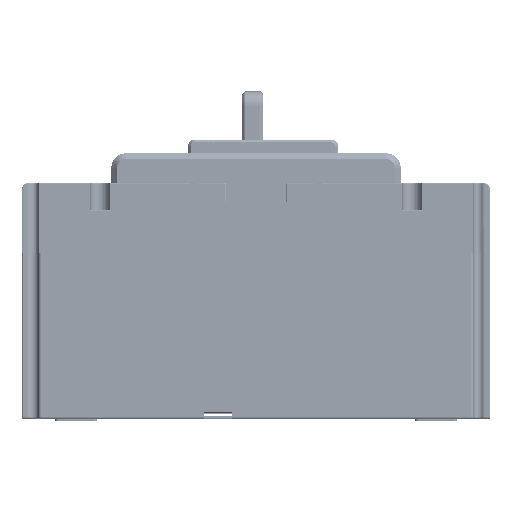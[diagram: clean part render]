
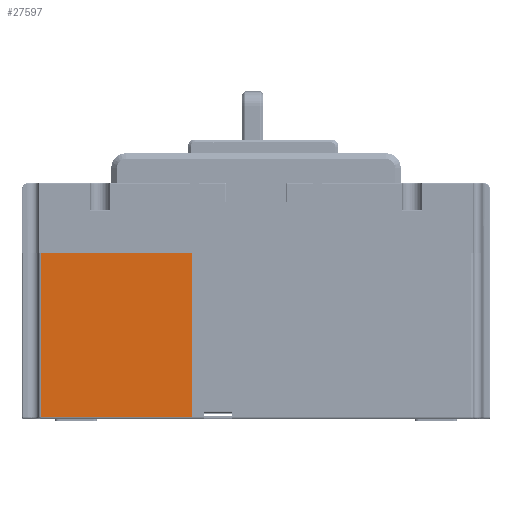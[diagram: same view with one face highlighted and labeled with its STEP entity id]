
A CAD part, top view. The second image highlights one B-rep face of the part: STEP entity #27597.
In plain terms, the highlighted planar face has unit normal (0, 0, 1).
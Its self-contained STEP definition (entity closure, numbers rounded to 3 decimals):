
#281=DIRECTION('',(1.,0.,0.));
#282=VECTOR('',#281,53.167);
#283=CARTESIAN_POINT('',(-75.667,-49.3,88.5));
#284=LINE('',#283,#282);
#299=DIRECTION('',(0.,1.,0.));
#300=VECTOR('',#299,58.);
#301=CARTESIAN_POINT('',(-22.5,-49.3,88.5));
#302=LINE('',#301,#300);
#738=DIRECTION('',(-1.,0.,0.));
#739=VECTOR('',#738,53.167);
#740=CARTESIAN_POINT('',(-22.5,8.7,88.5));
#741=LINE('',#740,#739);
#4413=DIRECTION('',(0.,-1.,0.));
#4414=VECTOR('',#4413,58.);
#4415=CARTESIAN_POINT('',(-75.667,8.7,88.5));
#4416=LINE('',#4415,#4414);
#17668=CARTESIAN_POINT('',(-22.5,-49.3,88.5));
#17669=VERTEX_POINT('',#17668);
#17670=CARTESIAN_POINT('',(-75.667,-49.3,88.5));
#17671=VERTEX_POINT('',#17670);
#17676=CARTESIAN_POINT('',(-22.5,8.7,88.5));
#17677=VERTEX_POINT('',#17676);
#17938=CARTESIAN_POINT('',(-75.667,8.7,88.5));
#17939=VERTEX_POINT('',#17938);
#27586=CARTESIAN_POINT('',(0.,0.,88.5));
#27587=DIRECTION('',(0.,0.,1.));
#27588=DIRECTION('',(1.,0.,0.));
#27589=AXIS2_PLACEMENT_3D('',#27586,#27587,#27588);
#27590=PLANE('',#27589);
#27591=ORIENTED_EDGE('',*,*,#22864,.F.);
#27592=ORIENTED_EDGE('',*,*,#27581,.F.);
#27593=ORIENTED_EDGE('',*,*,#23201,.F.);
#27594=ORIENTED_EDGE('',*,*,#22880,.F.);
#27595=EDGE_LOOP('',(#27591,#27592,#27593,#27594));
#27596=FACE_OUTER_BOUND('',#27595,.F.);
#27597=ADVANCED_FACE('',(#27596),#27590,.T.);
#22864=EDGE_CURVE('',#17671,#17669,#284,.T.);
#22880=EDGE_CURVE('',#17669,#17677,#302,.T.);
#23201=EDGE_CURVE('',#17677,#17939,#741,.T.);
#27581=EDGE_CURVE('',#17939,#17671,#4416,.T.);
